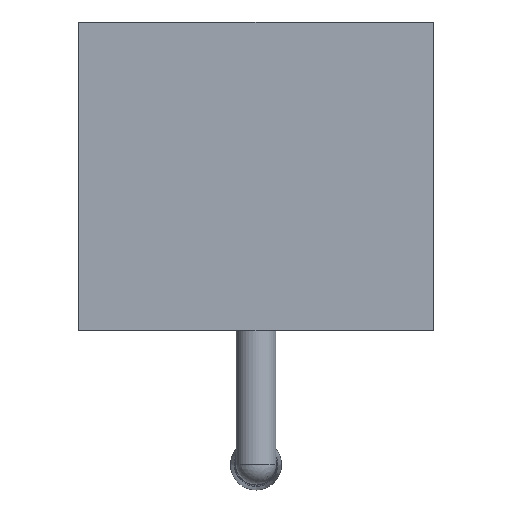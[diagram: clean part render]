
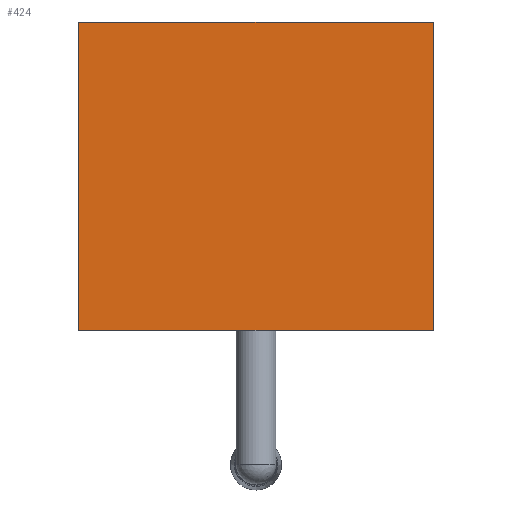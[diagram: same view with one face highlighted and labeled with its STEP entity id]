
A CAD part, left-side view. The second image highlights one B-rep face of the part: STEP entity #424.
In plain terms, the highlighted planar face has unit normal (-1, 0, 0).
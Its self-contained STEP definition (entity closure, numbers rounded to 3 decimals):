
#72=FACE_OUTER_BOUND('',#104,.T.);
#104=EDGE_LOOP('',(#332,#333,#334,#335));
#142=LINE('',#693,#172);
#146=LINE('',#701,#176);
#152=LINE('',#712,#182);
#153=LINE('',#714,#183);
#172=VECTOR('',#549,10.);
#176=VECTOR('',#555,10.);
#182=VECTOR('',#565,10.);
#183=VECTOR('',#568,10.);
#202=VERTEX_POINT('',#691);
#203=VERTEX_POINT('',#692);
#206=VERTEX_POINT('',#700);
#209=VERTEX_POINT('',#710);
#244=EDGE_CURVE('',#202,#203,#142,.T.);
#248=EDGE_CURVE('',#206,#203,#146,.T.);
#254=EDGE_CURVE('',#202,#209,#152,.T.);
#255=EDGE_CURVE('',#206,#209,#153,.T.);
#332=ORIENTED_EDGE('',*,*,#254,.T.);
#333=ORIENTED_EDGE('',*,*,#255,.F.);
#334=ORIENTED_EDGE('',*,*,#248,.T.);
#335=ORIENTED_EDGE('',*,*,#244,.F.);
#406=PLANE('',#477);
#424=ADVANCED_FACE('',(#72),#406,.T.);
#477=AXIS2_PLACEMENT_3D('',#713,#566,#567);
#549=DIRECTION('',(0.,0.,-1.));
#555=DIRECTION('',(0.,-1.,0.));
#565=DIRECTION('',(0.,1.,0.));
#566=DIRECTION('center_axis',(-1.,0.,0.));
#567=DIRECTION('ref_axis',(0.,0.,1.));
#568=DIRECTION('',(0.,0.,1.));
#691=CARTESIAN_POINT('',(-126.,-244.,610.));
#692=CARTESIAN_POINT('',(-126.,-244.,185.));
#693=CARTESIAN_POINT('',(-126.,-244.,185.));
#700=CARTESIAN_POINT('',(-126.,244.,185.));
#701=CARTESIAN_POINT('',(-126.,0.,185.));
#710=CARTESIAN_POINT('',(-126.,244.,610.));
#712=CARTESIAN_POINT('',(-126.,0.,610.));
#713=CARTESIAN_POINT('Origin',(-126.,0.,185.));
#714=CARTESIAN_POINT('',(-126.,244.,185.));
